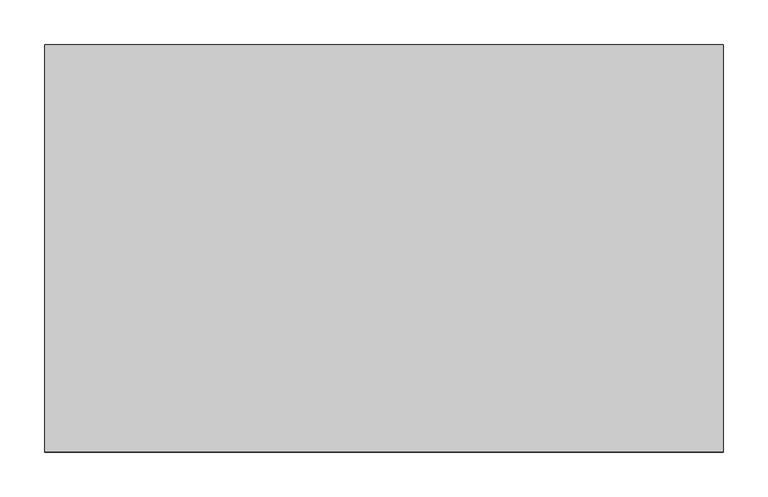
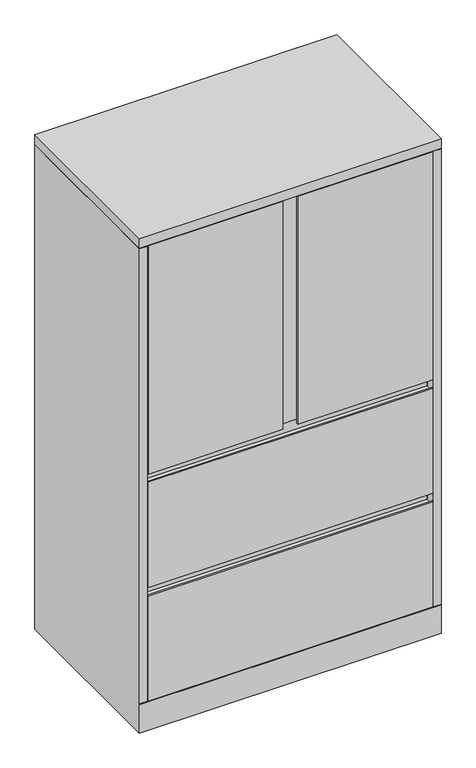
"""IFC4 building model written with IfcOpenShell, lengths in millimetres: furniture geometry, Steelcase - Universal Storage - Cabinet - Combination - Flush Steel : 52H - 2 Drawers - 18D x 30W."""

from ifc_helpers import new_model, si_unit, frame, origin, place, context, project, spatial, polyline, outline, extrude, faceted_brep, source, transform, mapped, element, save


def furniture_97d86e90(model_context):
    return source(origin(), model_context, "Body", "SolidModel", [
        extrude(outline(polyline([(21.8068168, -431.673866), (741.172, -431.673866), (741.172, -457.2), (400.05, -457.2), (400.05, -452.883482), (413.2189152, -452.883482), (413.2189152, -438.0238781), (361.95, -438.0238781), (361.95, -457.2), (21.8068168, -457.2), (21.8068168, -431.673866)])), frame((0.0, 0.0, 684.276), z_axis=(0.0, 0.0, 1.0), x_axis=(1.0, 0.0, 0.0)), (0.0, 0.0, 1.0), 609.6),
        extrude(outline(polyline([(762.0, 0.0), (762.0, -457.2), (0.0, -457.2), (0.0, 0.0), (762.0, 0.0)])), frame((0.0, 0.0, 1295.3999516), z_axis=(0.0, 0.0, 1.0), x_axis=(1.0, 0.0, 0.0)), (0.0, 0.0, 1.0), 25.4000484),
        extrude(outline(polyline([(-457.2, 358.7750484), (-454.0242491, 358.7750484), (-454.0242491, 349.2500484), (-431.673866, 349.2500484), (-431.673866, 381.0), (-430.1498674, 381.0), (-430.1498674, 349.2500484), (-430.1498674, 77.724), (-457.2, 77.724), (-457.2, 358.7750484)])), frame((20.8280006, 0.0, 0.0), z_axis=(1.0, 0.0, 0.0), x_axis=(0.0, 1.0, 0.0)), (0.0, 0.0, 1.0), 720.3439994),
        extrude(outline(polyline([(736.6000242, -25.4000008), (736.6000242, -430.1498674), (25.4000008, -430.1498674), (25.4000008, -25.4000008), (736.6000242, -25.4000008)])), frame((0.0, 0.0, 965.3270484), z_axis=(0.0, 0.0, 1.0), x_axis=(1.0, 0.0, 0.0)), (0.0, 0.0, 1.0), 22.2249516),
        extrude(outline(polyline([(-457.2, 662.0510484), (-454.0242491, 662.0510484), (-454.0242491, 652.5260484), (-431.673866, 652.5260484), (-431.673866, 684.276), (-430.1498674, 684.276), (-430.1498674, 652.5260484), (-430.1498674, 381.0), (-457.2, 381.0), (-457.2, 662.0510484)])), frame((20.8280006, 0.0, 0.0), z_axis=(1.0, 0.0, 0.0), x_axis=(0.0, 1.0, 0.0)), (0.0, 0.0, 1.0), 720.3439994),
        extrude(outline(polyline([(736.6000242, -25.4000008), (736.6000242, -430.1498674), (25.4000008, -430.1498674), (25.4000008, -25.4000008), (736.6000242, -25.4000008)])), frame((0.0, 0.0, 662.0510484), z_axis=(0.0, 0.0, 1.0), x_axis=(1.0, 0.0, 0.0)), (0.0, 0.0, 1.0), 22.2249516),
        faceted_brep([(762.0, 0.0, 0.0), (762.0, -457.2, 0.0), (0.0, -457.2, 0.0), (0.0, 0.0, 0.0), (0.0, 0.0, 1293.876), (762.0, 0.0, 1293.876), (0.0, -457.2, 76.2), (0.0, -457.2, 77.724), (0.0, -457.2, 1293.876), (762.0, -457.2, 76.2), (762.0, -457.2, 1293.876), (762.0, -457.2, 77.724), (736.6000242, -25.4000008, 1293.876), (736.6000242, -430.1498674, 1293.876), (741.172, -430.1498674, 1293.876), (741.172, -431.6738781, 1293.876), (742.696, -431.6738781, 1293.876), (742.696, -457.2, 1293.876), (19.304, -457.2, 1293.876), (19.304, -431.673866, 1293.876), (20.8280006, -431.673866, 1293.876), (20.8280006, -430.1498674, 1293.876), (25.4000008, -430.1498674, 1293.876), (25.4000008, -25.4000008, 1293.876), (19.304, -457.2, 77.724), (19.304, -437.896, 77.724), (742.696, -457.2, 77.724), (742.696, -437.7698418, 77.724), (736.6000242, -25.4000008, 77.724), (736.6000242, -430.1498674, 77.724), (741.172, -430.1498674, 77.724), (741.172, -431.6738781, 77.724), (742.696, -431.6738781, 77.724), (19.304, -431.673866, 77.724), (20.8280006, -431.673866, 77.724), (20.8280006, -430.1498674, 77.724), (25.4000008, -430.1498674, 77.724), (25.4000008, -25.4000008, 77.724), (25.526134, -431.673866, 77.724), (736.6000242, -431.673866, 77.724)], [[[0, 1, 2, 3]], [[0, 3, 4, 5]], [[4, 3, 2, 6, 7, 8]], [[2, 1, 9, 6]], [[1, 0, 5, 10, 11, 9]], [[12, 13, 14, 15, 16, 17, 10, 5, 4, 8, 18, 19, 20, 21, 22, 23]], [[24, 7, 25]], [[11, 26, 27]], [[13, 12, 28, 29]], [[14, 13, 29, 30]], [[15, 14, 30, 31]], [[16, 15, 31, 32]], [[17, 16, 32, 27, 26]], [[10, 17, 26, 11]], [[18, 8, 7, 24]], [[19, 18, 24, 25, 33]], [[20, 19, 33, 34]], [[21, 20, 34, 35]], [[22, 21, 35, 36]], [[23, 22, 36, 37]], [[12, 23, 37, 28]], [[38, 39, 27, 32, 31, 30, 29, 28, 37, 36, 35, 34, 33, 25]], [[7, 6, 38, 25]], [[39, 38, 6, 9]], [[39, 9, 11, 27]]]),
    ])


if __name__ == "__main__":
    model = new_model("IFC4")
    model_context = context("Model", 3, world=origin())
    ifc_project = project(units=[si_unit("LENGTHUNIT", "METRE", prefix="MILLI")], contexts=[model_context])
    site = spatial("IfcSite", under=ifc_project)
    building = spatial("IfcBuilding", under=site)
    placement = place(None, origin())
    furniture_shape = furniture_97d86e90(model_context)
    element("IfcFurniture", 1, ObjectType="Steelcase - Universal Storage - Cabinet - Combination - Flush Steel : 52H - 2 Drawers - 18D x 30W", at=placement, inside=building, context=model_context, shape_type="MappedRepresentation", body=[
        mapped(furniture_shape, transform((0.0, 0.0, 0.0), x_axis=(1.0, 0.0, 0.0), y_axis=(0.0, 1.0, 0.0), z_axis=(0.0, 0.0, 1.0))),
    ])
    save(model, "model.ifc")
